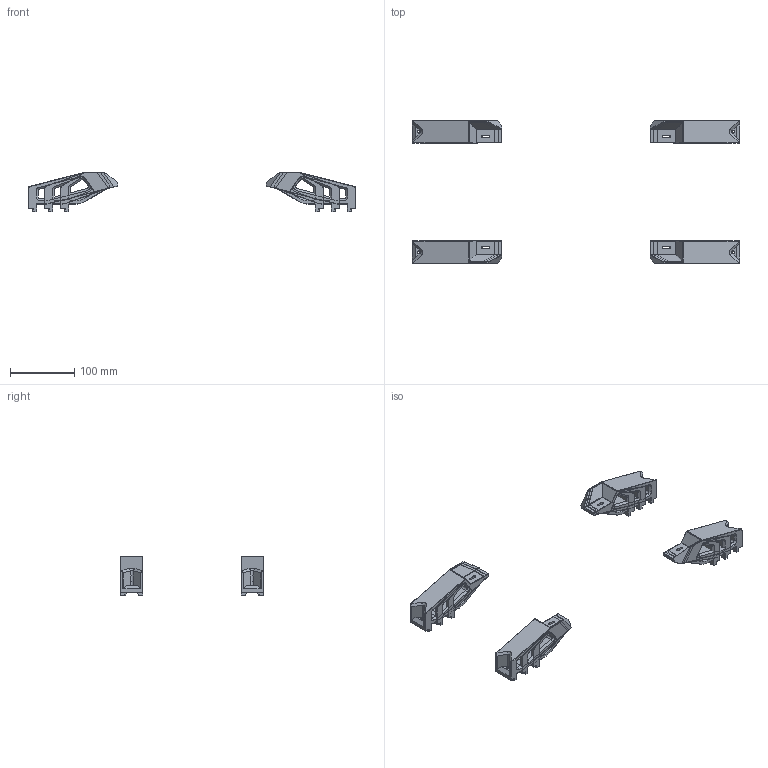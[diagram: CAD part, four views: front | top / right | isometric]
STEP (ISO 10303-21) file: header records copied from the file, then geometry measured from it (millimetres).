
FILE_DESCRIPTION(/* description */ (''),/* implementation_level */ '2;1');
FILE_NAME(/* name */ 'quattrobox_mount_voron.step',/* time_stamp */ '2025-05-28T18:51:12-03:00',/* author */ (''),/* organization */ (''),/* preprocessor_version */ 'ST-DEVELOPER v20.1',/* originating_system */ 'Autodesk Translation Framework v14.10.0.0',/* authorisation */ '');
FILE_SCHEMA (('AUTOMOTIVE_DESIGN { 1 0 10303 214 3 1 1 }'));
Length unit declared in the file: millimetre
Products named in the file (10): quattrobox_mount_voron; 350; 350mm; 350mm(Mirror); 300; 300mm(Mirror); 300mm; 250; 250mm(Mirror); 250mm
Assembly tree (15 placements, depth 3):
  quattrobox_mount_voron
    350
      350mm  x2
      350mm(Mirror)  x2
    300
      300mm(Mirror)  x2
      300mm  x2
    250
      250mm(Mirror)  x2
      250mm  x2
Bounding box: 509.69 x 222.73 x 61.68 mm (x, y, z)
Volume: 801684.7 mm3; surface area: 235946.4 mm2
Topology: 12 solids, 12 shells, 2052 faces, 5048 edges, 3032 vertices
Faces by surface type: plane 1032, cone 360, bspline 336, cylinder 324
Full cylindrical faces by diameter (mm): 3.3 x12
Entity records: 33786 total; most frequent: CARTESIAN_POINT 10267, ORIENTED_EDGE 5048, DIRECTION 4404, EDGE_CURVE 2524, LINE 1686, VECTOR 1686, VERTEX_POINT 1516, AXIS2_PLACEMENT_3D 1359
